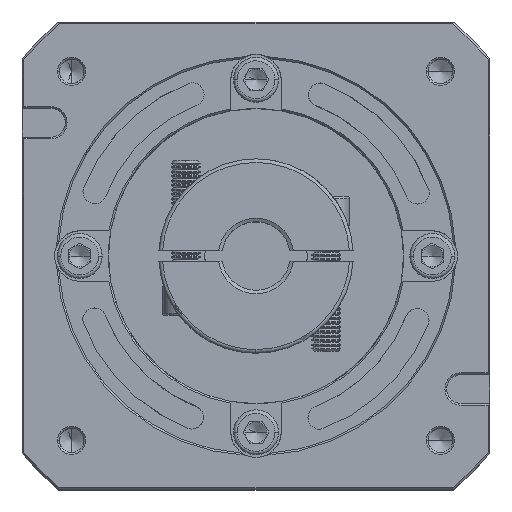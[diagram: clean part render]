
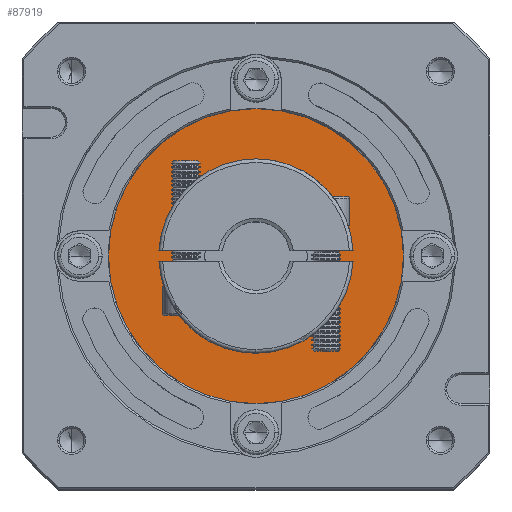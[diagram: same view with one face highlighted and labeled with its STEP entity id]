
A CAD part, top view. The second image highlights one B-rep face of the part: STEP entity #87919.
In plain terms, the highlighted planar face has unit normal (0, 0, 1).
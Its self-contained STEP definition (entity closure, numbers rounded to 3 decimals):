
#7763 = DIRECTION ( 'NONE',  ( 0., 0., -1. ) ) ;
#7805 = PLANE ( 'NONE',  #32381 ) ;
#11178 = VERTEX_POINT ( 'NONE', #59520 ) ;
#13022 = VERTEX_POINT ( 'NONE', #49080 ) ;
#14536 = ORIENTED_EDGE ( 'NONE', *, *, #54160, .T. ) ;
#18352 = CIRCLE ( 'NONE', #70502, 41. ) ;
#20660 = CIRCLE ( 'NONE', #79177, 20. ) ;
#21148 = ORIENTED_EDGE ( 'NONE', *, *, #74450, .T. ) ;
#32381 = AXIS2_PLACEMENT_3D ( 'NONE', #34756, #117942, #98981 ) ;
#33324 = CARTESIAN_POINT ( 'NONE',  ( 93.051, 102.547, -40.936 ) ) ;
#34756 = CARTESIAN_POINT ( 'NONE',  ( 73.051, 102.547, -40.936 ) ) ;
#37010 = ORIENTED_EDGE ( 'NONE', *, *, #43476, .T. ) ;
#40386 = EDGE_LOOP ( 'NONE', ( #37010, #21148 ) ) ;
#43476 = EDGE_CURVE ( 'NONE', #102955, #11178, #20660, .T. ) ;
#43562 = AXIS2_PLACEMENT_3D ( 'NONE', #75701, #84912, #94189 ) ;
#44332 = CARTESIAN_POINT ( 'NONE',  ( 73.051, 102.547, -40.936 ) ) ;
#47093 = CARTESIAN_POINT ( 'NONE',  ( 73.051, 102.547, -40.936 ) ) ;
#48438 = FACE_BOUND ( 'NONE', #40386, .T. ) ;
#49080 = CARTESIAN_POINT ( 'NONE',  ( 32.051, 102.547, -40.936 ) ) ;
#51088 = DIRECTION ( 'NONE',  ( 0., 0., -1. ) ) ;
#54160 = EDGE_CURVE ( 'NONE', #13022, #101803, #18352, .T. ) ;
#55130 = DIRECTION ( 'NONE',  ( 1., 0., 0. ) ) ;
#56332 = DIRECTION ( 'NONE',  ( 1., 0., 0. ) ) ;
#59520 = CARTESIAN_POINT ( 'NONE',  ( 53.051, 102.547, -40.936 ) ) ;
#60352 = DIRECTION ( 'NONE',  ( 1., 0., 0. ) ) ;
#64038 = ORIENTED_EDGE ( 'NONE', *, *, #103356, .T. ) ;
#70502 = AXIS2_PLACEMENT_3D ( 'NONE', #47093, #111373, #56332 ) ;
#72835 = FACE_OUTER_BOUND ( 'NONE', #91037, .T. ) ;
#74450 = EDGE_CURVE ( 'NONE', #11178, #102955, #79462, .T. ) ;
#75701 = CARTESIAN_POINT ( 'NONE',  ( 73.051, 102.547, -40.936 ) ) ;
#79177 = AXIS2_PLACEMENT_3D ( 'NONE', #106106, #51088, #60352 ) ;
#79462 = CIRCLE ( 'NONE', #98374, 20. ) ;
#84912 = DIRECTION ( 'NONE',  ( 0., 0., 1. ) ) ;
#87919 = ADVANCED_FACE ( 'NONE', ( #72835, #48438 ), #7805, .T. ) ;
#91037 = EDGE_LOOP ( 'NONE', ( #64038, #14536 ) ) ;
#94189 = DIRECTION ( 'NONE',  ( 1., 0., 0. ) ) ;
#98374 = AXIS2_PLACEMENT_3D ( 'NONE', #44332, #7763, #55130 ) ;
#98944 = CIRCLE ( 'NONE', #43562, 41. ) ;
#98981 = DIRECTION ( 'NONE',  ( 1., 0., 0. ) ) ;
#101803 = VERTEX_POINT ( 'NONE', #112291 ) ;
#102955 = VERTEX_POINT ( 'NONE', #33324 ) ;
#103356 = EDGE_CURVE ( 'NONE', #101803, #13022, #98944, .T. ) ;
#106106 = CARTESIAN_POINT ( 'NONE',  ( 73.051, 102.547, -40.936 ) ) ;
#111373 = DIRECTION ( 'NONE',  ( 0., 0., 1. ) ) ;
#112291 = CARTESIAN_POINT ( 'NONE',  ( 114.051, 102.547, -40.936 ) ) ;
#117942 = DIRECTION ( 'NONE',  ( 0., 0., 1. ) ) ;
